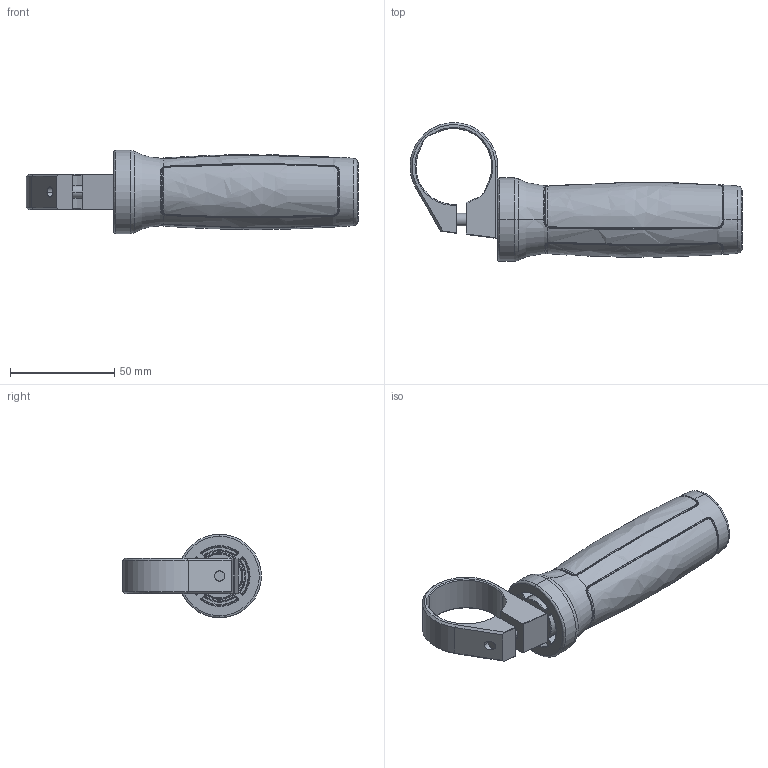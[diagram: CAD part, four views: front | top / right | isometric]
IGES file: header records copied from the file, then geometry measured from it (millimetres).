
Start section:  PTC IGES file: 6153970160.igs
Global section: file name: 6153970160.igs; native system: Creo Parametric by PTC Inc.; preprocessor: 2017170; author: greextsd; organization: Unknown; date: 20171025.143052; units: millimetre
Bounding box: 158.98 x 66.5 x 40 mm (x, y, z)
Volume: 84018.2 mm3; surface area: 33075 mm2
Topology: 1 solids, 1 shells, 488 faces, 1135 edges, 656 vertices
Faces by surface type: revolution 264, bspline 224
